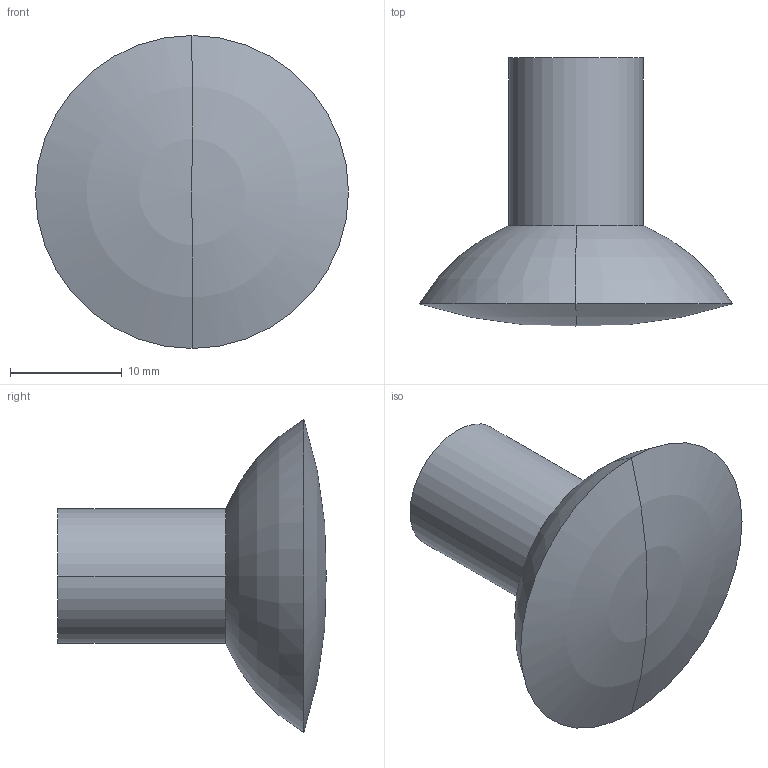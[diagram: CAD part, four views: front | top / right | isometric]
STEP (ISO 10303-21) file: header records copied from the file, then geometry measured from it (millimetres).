
FILE_DESCRIPTION( ( '' ), '1' );
FILE_NAME( 'C:/Documents and Settings/Nikhil/Desktop/Nik/Done/9070537.stp', '2013-10-23T10:43:58', ( '' ), ( '' ), ' ', ' ', ' ' );
FILE_SCHEMA( ( 'automotive_design' ) );
Length unit declared in the file: millimetre
Products named in the file (1): 1
Bounding box: 28 x 24 x 28 mm (x, y, z)
Volume: 4975.2 mm3; surface area: 2115.1 mm2
Topology: 1 solids, 1 shells, 10 faces, 23 edges, 14 vertices
Faces by surface type: cylinder 4, torus 4, plane 2
Entity records: 561 total; most frequent: DIRECTION 60, STYLED_ITEM 46, PRESENTATION_STYLE_ASSIGNMENT 46, CARTESIAN_POINT 46, COLOUR_RGB 46, ORIENTED_EDGE 42, AXIS2_PLACEMENT_3D 28, EDGE_CURVE 21
